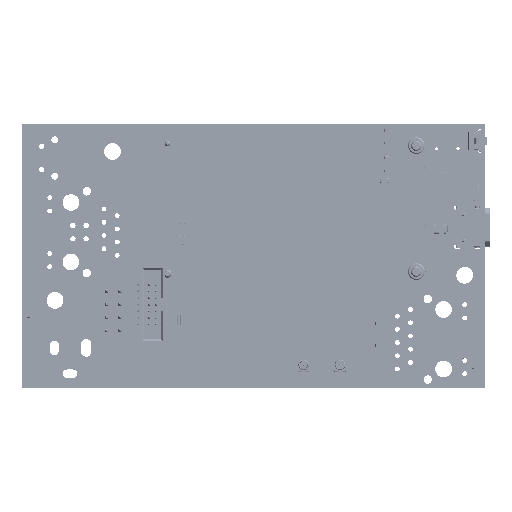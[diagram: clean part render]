
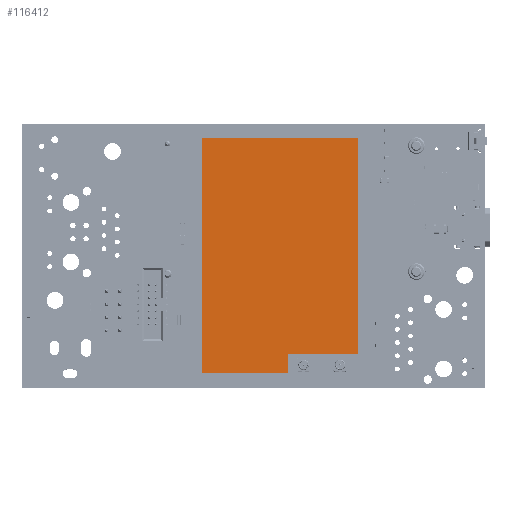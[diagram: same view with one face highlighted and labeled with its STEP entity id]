
A CAD part, top view. The second image highlights one B-rep face of the part: STEP entity #116412.
In plain terms, the highlighted planar face has unit normal (0, 0, 1).
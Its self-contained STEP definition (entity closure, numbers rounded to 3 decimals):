
#115944 = VERTEX_POINT('',#115945);
#115945 = CARTESIAN_POINT('',(-15.,-22.5,2.4));
#115952 = PLANE('',#115953);
#115953 = AXIS2_PLACEMENT_3D('',#115954,#115955,#115956);
#115954 = CARTESIAN_POINT('',(-15.,-22.5,0.));
#115955 = DIRECTION('',(-1.,0.,0.));
#115956 = DIRECTION('',(0.,1.,0.));
#115964 = PLANE('',#115965);
#115965 = AXIS2_PLACEMENT_3D('',#115966,#115967,#115968);
#115966 = CARTESIAN_POINT('',(1.5,-22.5,0.));
#115967 = DIRECTION('',(0.,-1.,0.));
#115968 = DIRECTION('',(-1.,0.,0.));
#115976 = EDGE_CURVE('',#115944,#115977,#115979,.T.);
#115977 = VERTEX_POINT('',#115978);
#115978 = CARTESIAN_POINT('',(-15.,22.5,2.4));
#115979 = SURFACE_CURVE('',#115980,(#115984,#115991),.PCURVE_S1.);
#115980 = LINE('',#115981,#115982);
#115981 = CARTESIAN_POINT('',(-15.,-22.5,2.4));
#115982 = VECTOR('',#115983,1.);
#115983 = DIRECTION('',(0.,1.,0.));
#115984 = PCURVE('',#115952,#115985);
#115985 = DEFINITIONAL_REPRESENTATION('',(#115986),#115990);
#115986 = LINE('',#115987,#115988);
#115987 = CARTESIAN_POINT('',(0.,-2.4));
#115988 = VECTOR('',#115989,1.);
#115989 = DIRECTION('',(1.,0.));
#115990 = ( GEOMETRIC_REPRESENTATION_CONTEXT(2) 
PARAMETRIC_REPRESENTATION_CONTEXT() REPRESENTATION_CONTEXT('2D SPACE',''
  ) );
#115991 = PCURVE('',#115992,#115997);
#115992 = PLANE('',#115993);
#115993 = AXIS2_PLACEMENT_3D('',#115994,#115995,#115996);
#115994 = CARTESIAN_POINT('',(-15.,-22.5,2.4));
#115995 = DIRECTION('',(0.,0.,1.));
#115996 = DIRECTION('',(1.,0.,0.));
#115997 = DEFINITIONAL_REPRESENTATION('',(#115998),#116002);
#115998 = LINE('',#115999,#116000);
#115999 = CARTESIAN_POINT('',(0.,0.));
#116000 = VECTOR('',#116001,1.);
#116001 = DIRECTION('',(0.,1.));
#116002 = ( GEOMETRIC_REPRESENTATION_CONTEXT(2) 
PARAMETRIC_REPRESENTATION_CONTEXT() REPRESENTATION_CONTEXT('2D SPACE',''
  ) );
#116020 = PLANE('',#116021);
#116021 = AXIS2_PLACEMENT_3D('',#116022,#116023,#116024);
#116022 = CARTESIAN_POINT('',(-15.,22.5,0.));
#116023 = DIRECTION('',(0.,1.,0.));
#116024 = DIRECTION('',(1.,0.,0.));
#116062 = EDGE_CURVE('',#115977,#116063,#116065,.T.);
#116063 = VERTEX_POINT('',#116064);
#116064 = CARTESIAN_POINT('',(15.,22.5,2.4));
#116065 = SURFACE_CURVE('',#116066,(#116070,#116077),.PCURVE_S1.);
#116066 = LINE('',#116067,#116068);
#116067 = CARTESIAN_POINT('',(-15.,22.5,2.4));
#116068 = VECTOR('',#116069,1.);
#116069 = DIRECTION('',(1.,0.,0.));
#116070 = PCURVE('',#116020,#116071);
#116071 = DEFINITIONAL_REPRESENTATION('',(#116072),#116076);
#116072 = LINE('',#116073,#116074);
#116073 = CARTESIAN_POINT('',(0.,-2.4));
#116074 = VECTOR('',#116075,1.);
#116075 = DIRECTION('',(1.,0.));
#116076 = ( GEOMETRIC_REPRESENTATION_CONTEXT(2) 
PARAMETRIC_REPRESENTATION_CONTEXT() REPRESENTATION_CONTEXT('2D SPACE',''
  ) );
#116077 = PCURVE('',#115992,#116078);
#116078 = DEFINITIONAL_REPRESENTATION('',(#116079),#116083);
#116079 = LINE('',#116080,#116081);
#116080 = CARTESIAN_POINT('',(0.,45.));
#116081 = VECTOR('',#116082,1.);
#116082 = DIRECTION('',(1.,0.));
#116083 = ( GEOMETRIC_REPRESENTATION_CONTEXT(2) 
PARAMETRIC_REPRESENTATION_CONTEXT() REPRESENTATION_CONTEXT('2D SPACE',''
  ) );
#116101 = PLANE('',#116102);
#116102 = AXIS2_PLACEMENT_3D('',#116103,#116104,#116105);
#116103 = CARTESIAN_POINT('',(15.,22.5,0.));
#116104 = DIRECTION('',(1.,0.,0.));
#116105 = DIRECTION('',(0.,-1.,0.));
#116138 = EDGE_CURVE('',#116063,#116139,#116141,.T.);
#116139 = VERTEX_POINT('',#116140);
#116140 = CARTESIAN_POINT('',(15.,-19.,2.4));
#116141 = SURFACE_CURVE('',#116142,(#116146,#116153),.PCURVE_S1.);
#116142 = LINE('',#116143,#116144);
#116143 = CARTESIAN_POINT('',(15.,22.5,2.4));
#116144 = VECTOR('',#116145,1.);
#116145 = DIRECTION('',(0.,-1.,0.));
#116146 = PCURVE('',#116101,#116147);
#116147 = DEFINITIONAL_REPRESENTATION('',(#116148),#116152);
#116148 = LINE('',#116149,#116150);
#116149 = CARTESIAN_POINT('',(0.,-2.4));
#116150 = VECTOR('',#116151,1.);
#116151 = DIRECTION('',(1.,0.));
#116152 = ( GEOMETRIC_REPRESENTATION_CONTEXT(2) 
PARAMETRIC_REPRESENTATION_CONTEXT() REPRESENTATION_CONTEXT('2D SPACE',''
  ) );
#116153 = PCURVE('',#115992,#116154);
#116154 = DEFINITIONAL_REPRESENTATION('',(#116155),#116159);
#116155 = LINE('',#116156,#116157);
#116156 = CARTESIAN_POINT('',(30.,45.));
#116157 = VECTOR('',#116158,1.);
#116158 = DIRECTION('',(0.,-1.));
#116159 = ( GEOMETRIC_REPRESENTATION_CONTEXT(2) 
PARAMETRIC_REPRESENTATION_CONTEXT() REPRESENTATION_CONTEXT('2D SPACE',''
  ) );
#116177 = PLANE('',#116178);
#116178 = AXIS2_PLACEMENT_3D('',#116179,#116180,#116181);
#116179 = CARTESIAN_POINT('',(15.,-19.,0.));
#116180 = DIRECTION('',(0.,-1.,0.));
#116181 = DIRECTION('',(-1.,0.,0.));
#116214 = EDGE_CURVE('',#116139,#116215,#116217,.T.);
#116215 = VERTEX_POINT('',#116216);
#116216 = CARTESIAN_POINT('',(1.5,-19.,2.4));
#116217 = SURFACE_CURVE('',#116218,(#116222,#116229),.PCURVE_S1.);
#116218 = LINE('',#116219,#116220);
#116219 = CARTESIAN_POINT('',(15.,-19.,2.4));
#116220 = VECTOR('',#116221,1.);
#116221 = DIRECTION('',(-1.,0.,0.));
#116222 = PCURVE('',#116177,#116223);
#116223 = DEFINITIONAL_REPRESENTATION('',(#116224),#116228);
#116224 = LINE('',#116225,#116226);
#116225 = CARTESIAN_POINT('',(0.,-2.4));
#116226 = VECTOR('',#116227,1.);
#116227 = DIRECTION('',(1.,0.));
#116228 = ( GEOMETRIC_REPRESENTATION_CONTEXT(2) 
PARAMETRIC_REPRESENTATION_CONTEXT() REPRESENTATION_CONTEXT('2D SPACE',''
  ) );
#116229 = PCURVE('',#115992,#116230);
#116230 = DEFINITIONAL_REPRESENTATION('',(#116231),#116235);
#116231 = LINE('',#116232,#116233);
#116232 = CARTESIAN_POINT('',(30.,3.5));
#116233 = VECTOR('',#116234,1.);
#116234 = DIRECTION('',(-1.,0.));
#116235 = ( GEOMETRIC_REPRESENTATION_CONTEXT(2) 
PARAMETRIC_REPRESENTATION_CONTEXT() REPRESENTATION_CONTEXT('2D SPACE',''
  ) );
#116253 = PLANE('',#116254);
#116254 = AXIS2_PLACEMENT_3D('',#116255,#116256,#116257);
#116255 = CARTESIAN_POINT('',(1.5,-19.,0.));
#116256 = DIRECTION('',(1.,0.,0.));
#116257 = DIRECTION('',(0.,-1.,0.));
#116290 = EDGE_CURVE('',#116215,#116291,#116293,.T.);
#116291 = VERTEX_POINT('',#116292);
#116292 = CARTESIAN_POINT('',(1.5,-22.5,2.4));
#116293 = SURFACE_CURVE('',#116294,(#116298,#116305),.PCURVE_S1.);
#116294 = LINE('',#116295,#116296);
#116295 = CARTESIAN_POINT('',(1.5,-19.,2.4));
#116296 = VECTOR('',#116297,1.);
#116297 = DIRECTION('',(0.,-1.,0.));
#116298 = PCURVE('',#116253,#116299);
#116299 = DEFINITIONAL_REPRESENTATION('',(#116300),#116304);
#116300 = LINE('',#116301,#116302);
#116301 = CARTESIAN_POINT('',(0.,-2.4));
#116302 = VECTOR('',#116303,1.);
#116303 = DIRECTION('',(1.,0.));
#116304 = ( GEOMETRIC_REPRESENTATION_CONTEXT(2) 
PARAMETRIC_REPRESENTATION_CONTEXT() REPRESENTATION_CONTEXT('2D SPACE',''
  ) );
#116305 = PCURVE('',#115992,#116306);
#116306 = DEFINITIONAL_REPRESENTATION('',(#116307),#116311);
#116307 = LINE('',#116308,#116309);
#116308 = CARTESIAN_POINT('',(16.5,3.5));
#116309 = VECTOR('',#116310,1.);
#116310 = DIRECTION('',(0.,-1.));
#116311 = ( GEOMETRIC_REPRESENTATION_CONTEXT(2) 
PARAMETRIC_REPRESENTATION_CONTEXT() REPRESENTATION_CONTEXT('2D SPACE',''
  ) );
#116361 = EDGE_CURVE('',#116291,#115944,#116362,.T.);
#116362 = SURFACE_CURVE('',#116363,(#116367,#116374),.PCURVE_S1.);
#116363 = LINE('',#116364,#116365);
#116364 = CARTESIAN_POINT('',(1.5,-22.5,2.4));
#116365 = VECTOR('',#116366,1.);
#116366 = DIRECTION('',(-1.,0.,0.));
#116367 = PCURVE('',#115964,#116368);
#116368 = DEFINITIONAL_REPRESENTATION('',(#116369),#116373);
#116369 = LINE('',#116370,#116371);
#116370 = CARTESIAN_POINT('',(0.,-2.4));
#116371 = VECTOR('',#116372,1.);
#116372 = DIRECTION('',(1.,0.));
#116373 = ( GEOMETRIC_REPRESENTATION_CONTEXT(2) 
PARAMETRIC_REPRESENTATION_CONTEXT() REPRESENTATION_CONTEXT('2D SPACE',''
  ) );
#116374 = PCURVE('',#115992,#116375);
#116375 = DEFINITIONAL_REPRESENTATION('',(#116376),#116380);
#116376 = LINE('',#116377,#116378);
#116377 = CARTESIAN_POINT('',(16.5,0.));
#116378 = VECTOR('',#116379,1.);
#116379 = DIRECTION('',(-1.,0.));
#116380 = ( GEOMETRIC_REPRESENTATION_CONTEXT(2) 
PARAMETRIC_REPRESENTATION_CONTEXT() REPRESENTATION_CONTEXT('2D SPACE',''
  ) );
#116412 = ADVANCED_FACE('',(#116413),#115992,.T.);
#116413 = FACE_BOUND('',#116414,.F.);
#116414 = EDGE_LOOP('',(#116415,#116416,#116417,#116418,#116419,#116420)
  );
#116415 = ORIENTED_EDGE('',*,*,#115976,.T.);
#116416 = ORIENTED_EDGE('',*,*,#116062,.T.);
#116417 = ORIENTED_EDGE('',*,*,#116138,.T.);
#116418 = ORIENTED_EDGE('',*,*,#116214,.T.);
#116419 = ORIENTED_EDGE('',*,*,#116290,.T.);
#116420 = ORIENTED_EDGE('',*,*,#116361,.T.);
